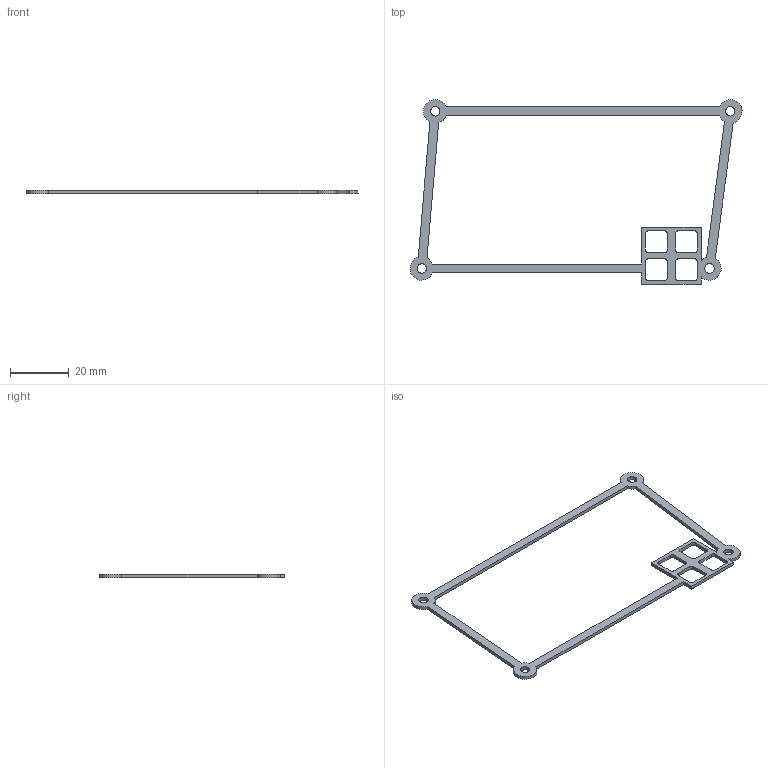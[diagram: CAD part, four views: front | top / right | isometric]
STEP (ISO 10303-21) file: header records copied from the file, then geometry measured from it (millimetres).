
FILE_DESCRIPTION(('Open CASCADE Model'),'2;1');
FILE_NAME('Open CASCADE Shape Model','2026-11-14T12:48:49',('Author'),( 'Open CASCADE'),'Open CASCADE STEP processor 7.9','Open CASCADE 7.9' ,'Unknown');
FILE_SCHEMA(('AUTOMOTIVE_DESIGN { 1 0 10303 214 1 1 1 1 }'));
Length unit declared in the file: millimetre
Products named in the file (1): Open CASCADE STEP translator 7.9 4
Bounding box: 113.09 x 62.94 x 1.2 mm (x, y, z)
Volume: 1332.5 mm3; surface area: 3193 mm2
Topology: 1 solids, 1 shells, 60 faces, 174 edges, 116 vertices
Faces by surface type: plane 32, cylinder 28
Full cylindrical faces by diameter (mm): 3.2 x4
Entity records: 4344 total; most frequent: CARTESIAN_POINT 783, DIRECTION 686, LINE 410, VECTOR 410, ORIENTED_EDGE 348, PCURVE 348, DEFINITIONAL_REPRESENTATION 348, EDGE_CURVE 174
